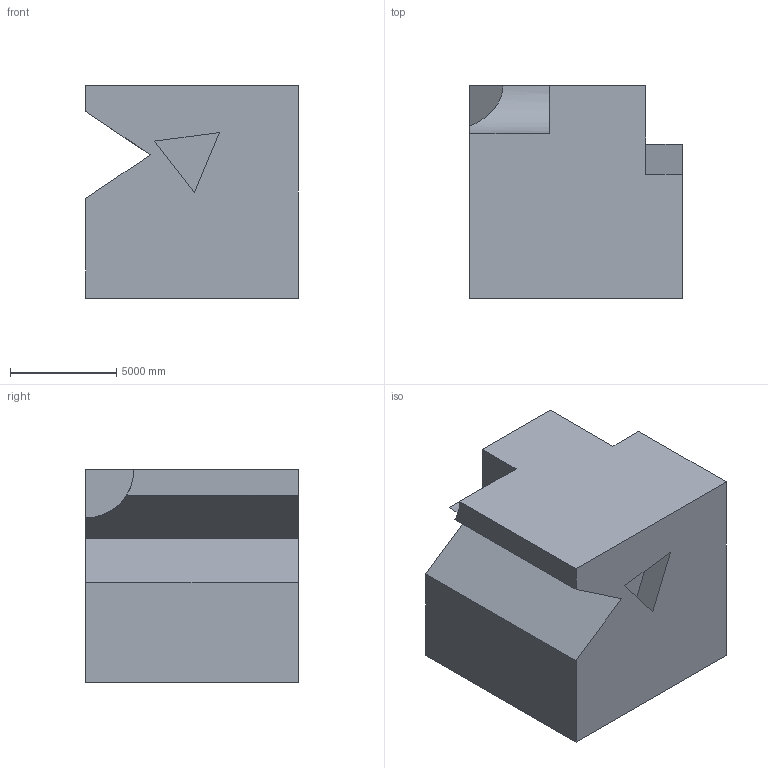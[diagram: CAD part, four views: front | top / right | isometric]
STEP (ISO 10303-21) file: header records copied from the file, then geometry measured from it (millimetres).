
FILE_DESCRIPTION (( 'STEP AP203' ), '1' );
FILE_NAME ('388.STEP', '2022-07-29T11:05:30', ( 'user' ), ( '' ), 'SwSTEP 2.0', 'SolidWorks 2021', '' );
FILE_SCHEMA (( 'CONFIG_CONTROL_DESIGN' ));
Length unit declared in the file: centimetre
Products named in the file (1): 388
Bounding box: 10000 x 10000 x 10000 mm (x, y, z)
Volume: 859555216794.2 mm3; surface area: 612384317.7 mm2
Topology: 1 solids, 1 shells, 17 faces, 42 edges, 28 vertices
Faces by surface type: plane 16, cylinder 1
Entity records: 575 total; most frequent: CARTESIAN_POINT 91, ORIENTED_EDGE 84, DIRECTION 79, EDGE_CURVE 42, LINE 39, VECTOR 39, VERTEX_POINT 28, AXIS2_PLACEMENT_3D 20
